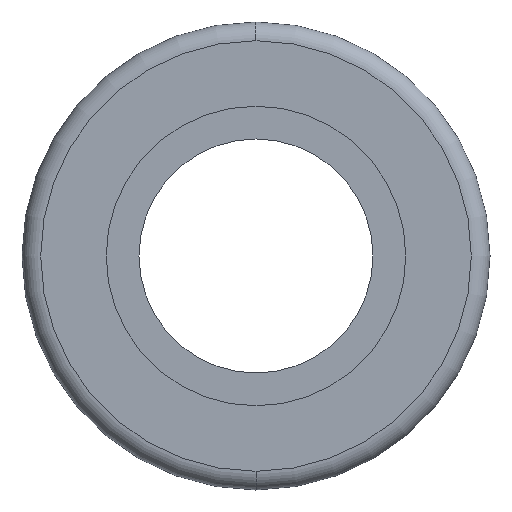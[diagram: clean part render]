
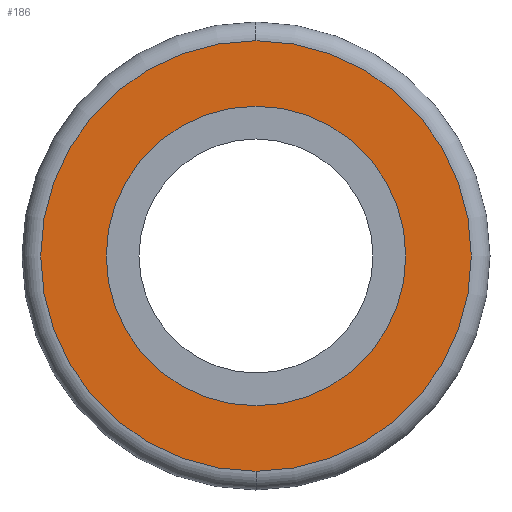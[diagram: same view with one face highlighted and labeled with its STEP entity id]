
A CAD part, left-side view. The second image highlights one B-rep face of the part: STEP entity #186.
In plain terms, the highlighted planar face has unit normal (-1, 0, 0).
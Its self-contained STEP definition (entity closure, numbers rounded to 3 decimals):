
#25 = VERTEX_POINT ( 'NONE', #157 ) ;
#56 = EDGE_CURVE ( 'NONE', #525, #133, #529, .T. ) ;
#66 = CIRCLE ( 'NONE', #207, 23. ) ;
#68 = DIRECTION ( 'NONE',  ( -1., 0., 0. ) ) ;
#74 = CARTESIAN_POINT ( 'NONE',  ( 0., 12.5, 0. ) ) ;
#80 = CARTESIAN_POINT ( 'NONE',  ( 0., 0., 0. ) ) ;
#89 = FACE_BOUND ( 'NONE', #413, .T. ) ;
#96 = EDGE_LOOP ( 'NONE', ( #386, #345 ) ) ;
#122 = DIRECTION ( 'NONE',  ( 0., 0., -1. ) ) ;
#126 = FACE_OUTER_BOUND ( 'NONE', #96, .T. ) ;
#131 = EDGE_CURVE ( 'NONE', #25, #337, #66, .T. ) ;
#133 = VERTEX_POINT ( 'NONE', #519 ) ;
#157 = CARTESIAN_POINT ( 'NONE',  ( 0., 0., 23. ) ) ;
#166 = EDGE_CURVE ( 'NONE', #133, #525, #593, .T. ) ;
#176 = AXIS2_PLACEMENT_3D ( 'NONE', #256, #68, #407 ) ;
#186 = ADVANCED_FACE ( 'NONE', ( #126, #89 ), #213, .F. ) ;
#196 = ORIENTED_EDGE ( 'NONE', *, *, #56, .F. ) ;
#207 = AXIS2_PLACEMENT_3D ( 'NONE', #80, #276, #269 ) ;
#213 = PLANE ( 'NONE',  #480 ) ;
#218 = DIRECTION ( 'NONE',  ( -1., 0., 0. ) ) ;
#256 = CARTESIAN_POINT ( 'NONE',  ( 0., 0., 0. ) ) ;
#269 = DIRECTION ( 'NONE',  ( 0., 0., -1. ) ) ;
#276 = DIRECTION ( 'NONE',  ( -1., 0., 0. ) ) ;
#292 = EDGE_CURVE ( 'NONE', #337, #25, #591, .T. ) ;
#337 = VERTEX_POINT ( 'NONE', #377 ) ;
#345 = ORIENTED_EDGE ( 'NONE', *, *, #131, .T. ) ;
#354 = CARTESIAN_POINT ( 'NONE',  ( 0., 0., -16. ) ) ;
#374 = ORIENTED_EDGE ( 'NONE', *, *, #166, .F. ) ;
#377 = CARTESIAN_POINT ( 'NONE',  ( 0., 0., -23. ) ) ;
#381 = AXIS2_PLACEMENT_3D ( 'NONE', #478, #430, #522 ) ;
#386 = ORIENTED_EDGE ( 'NONE', *, *, #292, .T. ) ;
#407 = DIRECTION ( 'NONE',  ( 0., 0., 1. ) ) ;
#409 = AXIS2_PLACEMENT_3D ( 'NONE', #424, #218, #557 ) ;
#413 = EDGE_LOOP ( 'NONE', ( #374, #196 ) ) ;
#424 = CARTESIAN_POINT ( 'NONE',  ( 0., 0., 0. ) ) ;
#430 = DIRECTION ( 'NONE',  ( -1., 0., 0. ) ) ;
#478 = CARTESIAN_POINT ( 'NONE',  ( 0., 0., 0. ) ) ;
#480 = AXIS2_PLACEMENT_3D ( 'NONE', #74, #553, #122 ) ;
#519 = CARTESIAN_POINT ( 'NONE',  ( 0., 0., 16. ) ) ;
#522 = DIRECTION ( 'NONE',  ( 0., 0., -1. ) ) ;
#525 = VERTEX_POINT ( 'NONE', #354 ) ;
#529 = CIRCLE ( 'NONE', #176, 16. ) ;
#553 = DIRECTION ( 'NONE',  ( 1., 0., 0. ) ) ;
#557 = DIRECTION ( 'NONE',  ( 0., 0., 1. ) ) ;
#591 = CIRCLE ( 'NONE', #381, 23. ) ;
#593 = CIRCLE ( 'NONE', #409, 16. ) ;
